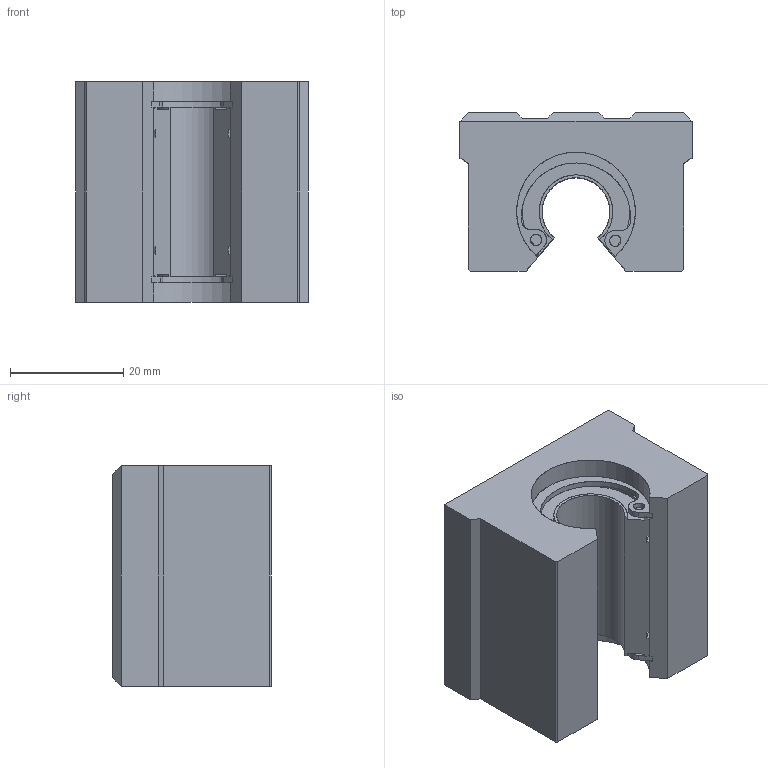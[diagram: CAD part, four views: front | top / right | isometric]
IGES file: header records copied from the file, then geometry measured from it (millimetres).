
Start section: SolidWorks IGES file using analytic representation for surfaces
Global section: file name: D:\SOLIDWORKS PROEKTI\freelance cnc cat\VTORA SERIJA\SBR-UU\SBR12UU.IGS; native system: SolidWorks 2016; preprocessor: SolidWorks 2016; author: User; date: 170806.130212; units: millimetre
Bounding box: 41 x 28 x 39 mm (x, y, z)
Surface area: 12835 mm2 (no closed solid volume)
Topology: 0 solids, 0 shells, 303 faces, 7236 edges, 8858 vertices
Faces by surface type: bspline 212, revolution 91
